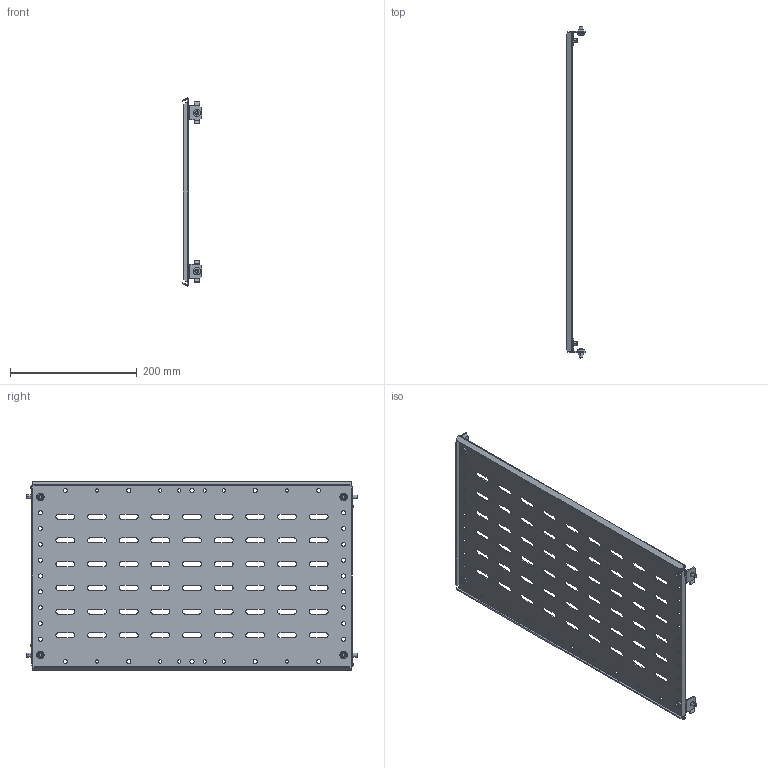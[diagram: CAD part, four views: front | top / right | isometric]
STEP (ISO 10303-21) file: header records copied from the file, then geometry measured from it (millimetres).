
FILE_DESCRIPTION (( 'STEP AP214' ), '1' );
FILE_NAME ('FO-00-SWF-030-060 Ïåðåãîðîäêà ñåêöèîíèðîâàíèÿ çàäíÿÿ 300õ600 ìì.STEP', '2025-08-12T08:51:06', ( '' ), ( '' ), 'SwSTEP 2.0', 'SolidWorks 2023', '' );
FILE_SCHEMA (( 'AUTOMOTIVE_DESIGN' ));
Length unit declared in the file: millimetre
Products named in the file (1): FO-00-SWF-030-060 Перегородка секционирования задняя 300х600 мм
Bounding box: 30.52 x 524 x 297.66 mm (x, y, z)
Volume: 235929.5 mm3; surface area: 315724.6 mm2
Topology: 1 solids, 5 shells, 742 faces, 2068 edges, 1356 vertices
Faces by surface type: cylinder 418, plane 268, torus 24, cone 24, sphere 8
Entity records: 24579 total; most frequent: CARTESIAN_POINT 4435, DIRECTION 4338, ORIENTED_EDGE 4136, EDGE_CURVE 2068, AXIS2_PLACEMENT_3D 1595, VERTEX_POINT 1356, LINE 1148, VECTOR 1148
